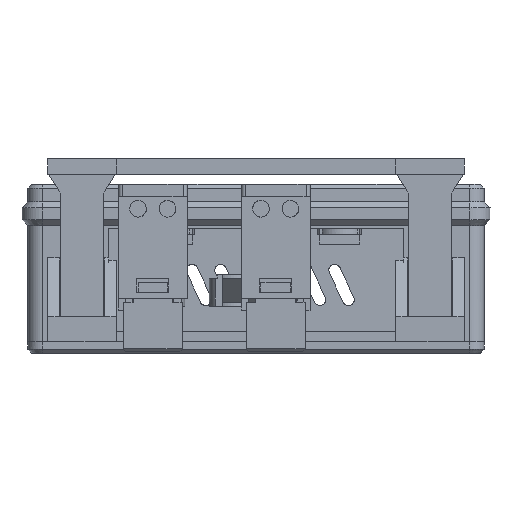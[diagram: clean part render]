
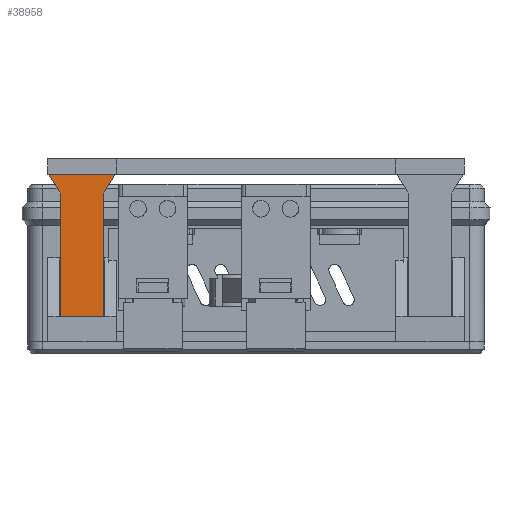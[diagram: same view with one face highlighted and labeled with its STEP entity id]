
A CAD part, left-side view. The second image highlights one B-rep face of the part: STEP entity #38958.
In plain terms, the highlighted planar face has unit normal (-1, 0, 0).
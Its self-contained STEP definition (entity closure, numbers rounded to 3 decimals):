
#36818 = PLANE('',#36819);
#36819 = AXIS2_PLACEMENT_3D('',#36820,#36821,#36822);
#36820 = CARTESIAN_POINT('',(-57.05,42.4,40.));
#36821 = DIRECTION('',(0.,0.,-1.));
#36822 = DIRECTION('',(1.,0.,0.));
#37264 = EDGE_CURVE('',#37265,#37267,#37269,.T.);
#37265 = VERTEX_POINT('',#37266);
#37266 = CARTESIAN_POINT('',(-47.05,42.169,40.));
#37267 = VERTEX_POINT('',#37268);
#37268 = CARTESIAN_POINT('',(-47.05,28.631,40.));
#37269 = SURFACE_CURVE('',#37270,(#37274,#37281),.PCURVE_S1.);
#37270 = LINE('',#37271,#37272);
#37271 = CARTESIAN_POINT('',(-47.05,42.169,40.));
#37272 = VECTOR('',#37273,1.);
#37273 = DIRECTION('',(0.,-1.,0.));
#37274 = PCURVE('',#36818,#37275);
#37275 = DEFINITIONAL_REPRESENTATION('',(#37276),#37280);
#37276 = LINE('',#37277,#37278);
#37277 = CARTESIAN_POINT('',(10.,0.231));
#37278 = VECTOR('',#37279,1.);
#37279 = DIRECTION('',(0.,1.));
#37280 = ( GEOMETRIC_REPRESENTATION_CONTEXT(2) 
PARAMETRIC_REPRESENTATION_CONTEXT() REPRESENTATION_CONTEXT('2D SPACE',''
  ) );
#37281 = PCURVE('',#37282,#37287);
#37282 = PLANE('',#37283);
#37283 = AXIS2_PLACEMENT_3D('',#37284,#37285,#37286);
#37284 = CARTESIAN_POINT('',(-47.05,42.169,11.));
#37285 = DIRECTION('',(-1.,0.,0.));
#37286 = DIRECTION('',(0.,-1.,0.));
#37287 = DEFINITIONAL_REPRESENTATION('',(#37288),#37292);
#37288 = LINE('',#37289,#37290);
#37289 = CARTESIAN_POINT('',(0.,29.));
#37290 = VECTOR('',#37291,1.);
#37291 = DIRECTION('',(1.,0.));
#37292 = ( GEOMETRIC_REPRESENTATION_CONTEXT(2) 
PARAMETRIC_REPRESENTATION_CONTEXT() REPRESENTATION_CONTEXT('2D SPACE',''
  ) );
#37310 = PLANE('',#37311);
#37311 = AXIS2_PLACEMENT_3D('',#37312,#37313,#37314);
#37312 = CARTESIAN_POINT('',(-47.05,31.1,36.));
#37313 = DIRECTION('',(0.,-0.851,-0.525));
#37314 = DIRECTION('',(1.,0.,0.));
#37364 = PLANE('',#37365);
#37365 = AXIS2_PLACEMENT_3D('',#37366,#37367,#37368);
#37366 = CARTESIAN_POINT('',(-36.85,39.7,36.));
#37367 = DIRECTION('',(0.,0.851,-0.525));
#37368 = DIRECTION('',(-1.,0.,0.));
#38754 = PLANE('',#38755);
#38755 = AXIS2_PLACEMENT_3D('',#38756,#38757,#38758);
#38756 = CARTESIAN_POINT('',(-47.05,39.7,11.));
#38757 = DIRECTION('',(0.,0.,-1.));
#38758 = DIRECTION('',(1.,0.,0.));
#38774 = VERTEX_POINT('',#38775);
#38775 = CARTESIAN_POINT('',(-47.05,31.1,11.));
#38789 = PLANE('',#38790);
#38790 = AXIS2_PLACEMENT_3D('',#38791,#38792,#38793);
#38791 = CARTESIAN_POINT('',(-47.05,31.1,11.));
#38792 = DIRECTION('',(0.,-1.,0.));
#38793 = DIRECTION('',(1.,0.,0.));
#38801 = EDGE_CURVE('',#38774,#38802,#38804,.T.);
#38802 = VERTEX_POINT('',#38803);
#38803 = CARTESIAN_POINT('',(-47.05,39.7,11.));
#38804 = SURFACE_CURVE('',#38805,(#38809,#38816),.PCURVE_S1.);
#38805 = LINE('',#38806,#38807);
#38806 = CARTESIAN_POINT('',(-47.05,31.1,11.));
#38807 = VECTOR('',#38808,1.);
#38808 = DIRECTION('',(0.,1.,0.));
#38809 = PCURVE('',#38754,#38810);
#38810 = DEFINITIONAL_REPRESENTATION('',(#38811),#38815);
#38811 = LINE('',#38812,#38813);
#38812 = CARTESIAN_POINT('',(0.,8.6));
#38813 = VECTOR('',#38814,1.);
#38814 = DIRECTION('',(0.,-1.));
#38815 = ( GEOMETRIC_REPRESENTATION_CONTEXT(2) 
PARAMETRIC_REPRESENTATION_CONTEXT() REPRESENTATION_CONTEXT('2D SPACE',''
  ) );
#38816 = PCURVE('',#37282,#38817);
#38817 = DEFINITIONAL_REPRESENTATION('',(#38818),#38822);
#38818 = LINE('',#38819,#38820);
#38819 = CARTESIAN_POINT('',(11.069,0.));
#38820 = VECTOR('',#38821,1.);
#38821 = DIRECTION('',(-1.,0.));
#38822 = ( GEOMETRIC_REPRESENTATION_CONTEXT(2) 
PARAMETRIC_REPRESENTATION_CONTEXT() REPRESENTATION_CONTEXT('2D SPACE',''
  ) );
#38838 = PLANE('',#38839);
#38839 = AXIS2_PLACEMENT_3D('',#38840,#38841,#38842);
#38840 = CARTESIAN_POINT('',(-36.85,39.7,11.));
#38841 = DIRECTION('',(0.,1.,-0.));
#38842 = DIRECTION('',(-1.,0.,0.));
#38958 = ADVANCED_FACE('',(#38959),#37282,.T.);
#38959 = FACE_BOUND('',#38960,.T.);
#38960 = EDGE_LOOP('',(#38961,#38984,#39005,#39006,#39029,#39050));
#38961 = ORIENTED_EDGE('',*,*,#38962,.T.);
#38962 = EDGE_CURVE('',#37265,#38963,#38965,.T.);
#38963 = VERTEX_POINT('',#38964);
#38964 = CARTESIAN_POINT('',(-47.05,39.7,36.));
#38965 = SURFACE_CURVE('',#38966,(#38970,#38977),.PCURVE_S1.);
#38966 = LINE('',#38967,#38968);
#38967 = CARTESIAN_POINT('',(-47.05,42.169,40.));
#38968 = VECTOR('',#38969,1.);
#38969 = DIRECTION('',(0.,-0.525,-0.851
    ));
#38970 = PCURVE('',#37282,#38971);
#38971 = DEFINITIONAL_REPRESENTATION('',(#38972),#38976);
#38972 = LINE('',#38973,#38974);
#38973 = CARTESIAN_POINT('',(0.,29.));
#38974 = VECTOR('',#38975,1.);
#38975 = DIRECTION('',(0.525,-0.851));
#38976 = ( GEOMETRIC_REPRESENTATION_CONTEXT(2) 
PARAMETRIC_REPRESENTATION_CONTEXT() REPRESENTATION_CONTEXT('2D SPACE',''
  ) );
#38977 = PCURVE('',#37364,#38978);
#38978 = DEFINITIONAL_REPRESENTATION('',(#38979),#38983);
#38979 = LINE('',#38980,#38981);
#38980 = CARTESIAN_POINT('',(10.2,4.701));
#38981 = VECTOR('',#38982,1.);
#38982 = DIRECTION('',(0.,-1.));
#38983 = ( GEOMETRIC_REPRESENTATION_CONTEXT(2) 
PARAMETRIC_REPRESENTATION_CONTEXT() REPRESENTATION_CONTEXT('2D SPACE',''
  ) );
#38984 = ORIENTED_EDGE('',*,*,#38985,.F.);
#38985 = EDGE_CURVE('',#38802,#38963,#38986,.T.);
#38986 = SURFACE_CURVE('',#38987,(#38991,#38998),.PCURVE_S1.);
#38987 = LINE('',#38988,#38989);
#38988 = CARTESIAN_POINT('',(-47.05,39.7,11.));
#38989 = VECTOR('',#38990,1.);
#38990 = DIRECTION('',(0.,0.,1.));
#38991 = PCURVE('',#37282,#38992);
#38992 = DEFINITIONAL_REPRESENTATION('',(#38993),#38997);
#38993 = LINE('',#38994,#38995);
#38994 = CARTESIAN_POINT('',(2.469,0.));
#38995 = VECTOR('',#38996,1.);
#38996 = DIRECTION('',(0.,1.));
#38997 = ( GEOMETRIC_REPRESENTATION_CONTEXT(2) 
PARAMETRIC_REPRESENTATION_CONTEXT() REPRESENTATION_CONTEXT('2D SPACE',''
  ) );
#38998 = PCURVE('',#38838,#38999);
#38999 = DEFINITIONAL_REPRESENTATION('',(#39000),#39004);
#39000 = LINE('',#39001,#39002);
#39001 = CARTESIAN_POINT('',(10.2,0.));
#39002 = VECTOR('',#39003,1.);
#39003 = DIRECTION('',(0.,1.));
#39004 = ( GEOMETRIC_REPRESENTATION_CONTEXT(2) 
PARAMETRIC_REPRESENTATION_CONTEXT() REPRESENTATION_CONTEXT('2D SPACE',''
  ) );
#39005 = ORIENTED_EDGE('',*,*,#38801,.F.);
#39006 = ORIENTED_EDGE('',*,*,#39007,.T.);
#39007 = EDGE_CURVE('',#38774,#39008,#39010,.T.);
#39008 = VERTEX_POINT('',#39009);
#39009 = CARTESIAN_POINT('',(-47.05,31.1,36.));
#39010 = SURFACE_CURVE('',#39011,(#39015,#39022),.PCURVE_S1.);
#39011 = LINE('',#39012,#39013);
#39012 = CARTESIAN_POINT('',(-47.05,31.1,11.));
#39013 = VECTOR('',#39014,1.);
#39014 = DIRECTION('',(0.,0.,1.));
#39015 = PCURVE('',#37282,#39016);
#39016 = DEFINITIONAL_REPRESENTATION('',(#39017),#39021);
#39017 = LINE('',#39018,#39019);
#39018 = CARTESIAN_POINT('',(11.069,0.));
#39019 = VECTOR('',#39020,1.);
#39020 = DIRECTION('',(0.,1.));
#39021 = ( GEOMETRIC_REPRESENTATION_CONTEXT(2) 
PARAMETRIC_REPRESENTATION_CONTEXT() REPRESENTATION_CONTEXT('2D SPACE',''
  ) );
#39022 = PCURVE('',#38789,#39023);
#39023 = DEFINITIONAL_REPRESENTATION('',(#39024),#39028);
#39024 = LINE('',#39025,#39026);
#39025 = CARTESIAN_POINT('',(0.,0.));
#39026 = VECTOR('',#39027,1.);
#39027 = DIRECTION('',(0.,1.));
#39028 = ( GEOMETRIC_REPRESENTATION_CONTEXT(2) 
PARAMETRIC_REPRESENTATION_CONTEXT() REPRESENTATION_CONTEXT('2D SPACE',''
  ) );
#39029 = ORIENTED_EDGE('',*,*,#39030,.F.);
#39030 = EDGE_CURVE('',#37267,#39008,#39031,.T.);
#39031 = SURFACE_CURVE('',#39032,(#39036,#39043),.PCURVE_S1.);
#39032 = LINE('',#39033,#39034);
#39033 = CARTESIAN_POINT('',(-47.05,28.631,40.));
#39034 = VECTOR('',#39035,1.);
#39035 = DIRECTION('',(0.,0.525,-0.851)
  );
#39036 = PCURVE('',#37282,#39037);
#39037 = DEFINITIONAL_REPRESENTATION('',(#39038),#39042);
#39038 = LINE('',#39039,#39040);
#39039 = CARTESIAN_POINT('',(13.538,29.));
#39040 = VECTOR('',#39041,1.);
#39041 = DIRECTION('',(-0.525,-0.851));
#39042 = ( GEOMETRIC_REPRESENTATION_CONTEXT(2) 
PARAMETRIC_REPRESENTATION_CONTEXT() REPRESENTATION_CONTEXT('2D SPACE',''
  ) );
#39043 = PCURVE('',#37310,#39044);
#39044 = DEFINITIONAL_REPRESENTATION('',(#39045),#39049);
#39045 = LINE('',#39046,#39047);
#39046 = CARTESIAN_POINT('',(0.,4.701));
#39047 = VECTOR('',#39048,1.);
#39048 = DIRECTION('',(0.,-1.));
#39049 = ( GEOMETRIC_REPRESENTATION_CONTEXT(2) 
PARAMETRIC_REPRESENTATION_CONTEXT() REPRESENTATION_CONTEXT('2D SPACE',''
  ) );
#39050 = ORIENTED_EDGE('',*,*,#37264,.F.);
